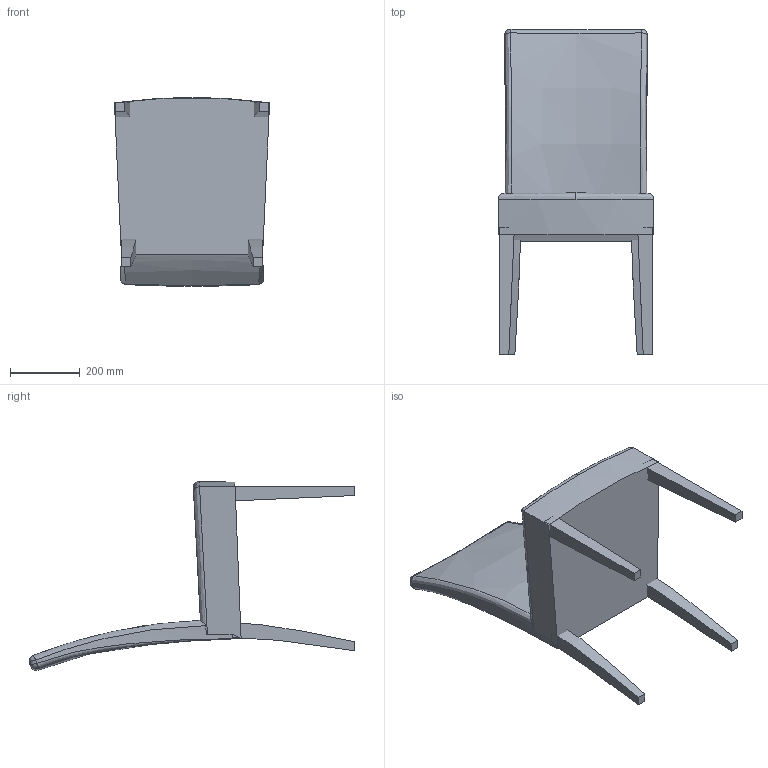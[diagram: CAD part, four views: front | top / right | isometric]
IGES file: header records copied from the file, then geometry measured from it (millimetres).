
Global section: file name: VincentSheppard_EdwardHB; native system: unknown; preprocessor: unknown; author: ict@vincentsheppard.com; organization: unknown; date: 20180516.170529; units: millimetre
Bounding box: 445 x 932.7 x 541.6 mm (x, y, z)
Volume: 32414646.3 mm3; surface area: 1219679.2 mm2
Topology: 5 solids, 5 shells, 52 faces, 116 edges, 70 vertices
Faces by surface type: bspline 52
